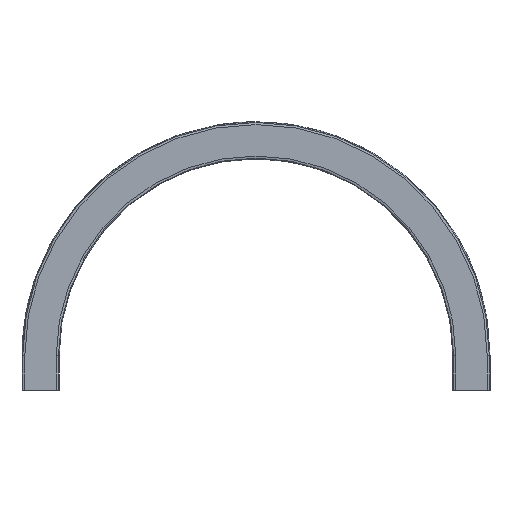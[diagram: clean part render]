
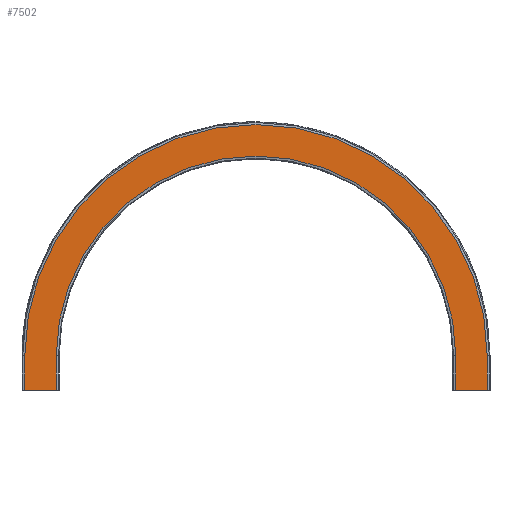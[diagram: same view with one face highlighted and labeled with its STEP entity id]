
A CAD part, front view. The second image highlights one B-rep face of the part: STEP entity #7502.
In plain terms, the highlighted planar face has unit normal (0, -1, 0).
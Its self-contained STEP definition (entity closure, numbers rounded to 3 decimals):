
#7133=CARTESIAN_POINT('',(36.5,-11.,0.0));
#7134=VERTEX_POINT('',#7133);
#7141=CARTESIAN_POINT('',(-36.5,-11.,0.0));
#7142=VERTEX_POINT('',#7141);
#7143=CARTESIAN_POINT('',(-36.5,-11.,0.0));
#7144=DIRECTION('',(1.0,0.0,0.0));
#7145=VECTOR('',#7144,73.);
#7146=LINE('',#7143,#7145);
#7147=EDGE_CURVE('',#7142,#7134,#7146,.T.);
#7213=CARTESIAN_POINT('',(-36.5,-11.,80.0));
#7214=VERTEX_POINT('',#7213);
#7228=CARTESIAN_POINT('',(-36.5,-11.,0.0));
#7229=DIRECTION('',(0.0,0.0,1.0));
#7230=VECTOR('',#7229,80.0);
#7231=LINE('',#7228,#7230);
#7232=EDGE_CURVE('',#7142,#7214,#7231,.T.);
#7242=CARTESIAN_POINT('',(36.5,-11.,80.0));
#7243=VERTEX_POINT('',#7242);
#7252=CARTESIAN_POINT('',(36.5,-11.,0.0));
#7253=DIRECTION('',(0.0,0.0,1.0));
#7254=VECTOR('',#7253,80.0);
#7255=LINE('',#7252,#7254);
#7256=EDGE_CURVE('',#7134,#7243,#7255,.T.);
#7329=CARTESIAN_POINT('',(-1036.5,-11.,80.0));
#7330=VERTEX_POINT('',#7329);
#7339=CARTESIAN_POINT('',(-500.0,-11.,80.0));
#7340=DIRECTION('',(0.0,-1.0,0.0));
#7341=DIRECTION('',(1.0,0.0,0.0));
#7342=AXIS2_PLACEMENT_3D('',#7339,#7340,#7341);
#7343=CIRCLE('',#7342,536.5);
#7344=EDGE_CURVE('',#7243,#7330,#7343,.T.);
#7396=CARTESIAN_POINT('',(-963.5,-11.,80.0));
#7397=VERTEX_POINT('',#7396);
#7412=CARTESIAN_POINT('',(-500.0,-11.,80.0));
#7413=DIRECTION('',(0.0,-1.0,0.0));
#7414=DIRECTION('',(1.0,0.0,0.0));
#7415=AXIS2_PLACEMENT_3D('',#7412,#7413,#7414);
#7416=CIRCLE('',#7415,463.5);
#7417=EDGE_CURVE('',#7214,#7397,#7416,.T.);
#7456=CARTESIAN_POINT('',(-963.5,-11.,0.));
#7457=VERTEX_POINT('',#7456);
#7466=CARTESIAN_POINT('',(-963.5,-11.,80.0));
#7467=DIRECTION('',(0.0,0.0,-1.0));
#7468=VECTOR('',#7467,80.0);
#7469=LINE('',#7466,#7468);
#7470=EDGE_CURVE('',#7397,#7457,#7469,.T.);
#7475=CARTESIAN_POINT('',(-1036.5,-11.,1730.796));
#7476=DIRECTION('',(0.0,-1.0,0.0));
#7477=DIRECTION('',(0.0,0.0,1.0));
#7478=AXIS2_PLACEMENT_3D('',#7475,#7476,#7477);
#7479=PLANE('',#7478);
#7480=CARTESIAN_POINT('',(-1036.5,-11.,0.0));
#7481=VERTEX_POINT('',#7480);
#7482=CARTESIAN_POINT('',(-1036.5,-11.,0.));
#7483=DIRECTION('',(1.0,0.0,0.0));
#7484=VECTOR('',#7483,73.);
#7485=LINE('',#7482,#7484);
#7486=EDGE_CURVE('',#7481,#7457,#7485,.T.);
#7487=ORIENTED_EDGE('',*,*,#7486,.T.);
#7488=ORIENTED_EDGE('',*,*,#7470,.F.);
#7489=ORIENTED_EDGE('',*,*,#7417,.F.);
#7490=ORIENTED_EDGE('',*,*,#7232,.F.);
#7491=ORIENTED_EDGE('',*,*,#7147,.T.);
#7492=ORIENTED_EDGE('',*,*,#7256,.T.);
#7493=ORIENTED_EDGE('',*,*,#7344,.T.);
#7494=CARTESIAN_POINT('',(-1036.5,-11.,80.0));
#7495=DIRECTION('',(0.0,0.0,-1.0));
#7496=VECTOR('',#7495,80.0);
#7497=LINE('',#7494,#7496);
#7498=EDGE_CURVE('',#7330,#7481,#7497,.T.);
#7499=ORIENTED_EDGE('',*,*,#7498,.T.);
#7500=EDGE_LOOP('',(#7487,#7488,#7489,#7490,#7491,#7492,#7493,#7499));
#7501=FACE_OUTER_BOUND('',#7500,.T.);
#7502=ADVANCED_FACE('',(#7501),#7479,.T.);
